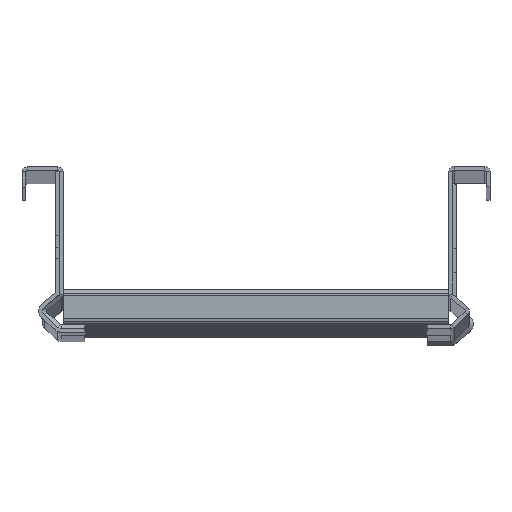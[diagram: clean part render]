
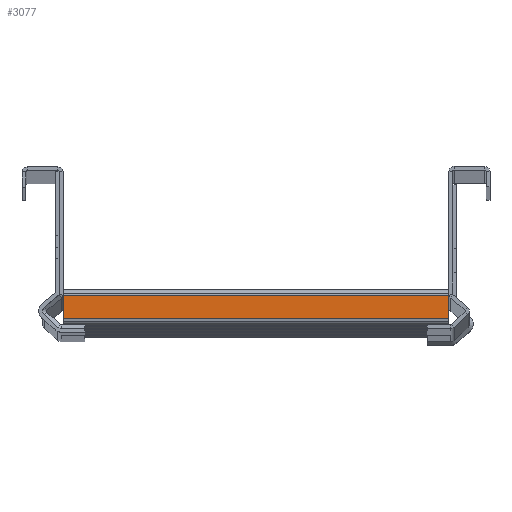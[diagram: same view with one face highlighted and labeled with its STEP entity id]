
A CAD part, top view. The second image highlights one B-rep face of the part: STEP entity #3077.
In plain terms, the highlighted planar face has unit normal (0, 0, 1) as drawn and (-1, 0, 0) by its records, which use the part's own axes.
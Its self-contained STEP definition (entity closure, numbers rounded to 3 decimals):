
#91 = PLANE ( 'NONE',  #1355 ) ;
#452 = EDGE_CURVE ( 'NONE', #3972, #2898, #3740, .T. ) ;
#499 = CARTESIAN_POINT ( 'NONE',  ( -17.5, 11.5, 75. ) ) ;
#589 = DIRECTION ( 'NONE',  ( 1., 0., 0. ) ) ;
#839 = VERTEX_POINT ( 'NONE', #1465 ) ;
#849 = LINE ( 'NONE', #2989, #4549 ) ;
#999 = ORIENTED_EDGE ( 'NONE', *, *, #1981, .T. ) ;
#1179 = DIRECTION ( 'NONE',  ( 0., 0., -1. ) ) ;
#1355 = AXIS2_PLACEMENT_3D ( 'NONE', #4372, #589, #1765 ) ;
#1465 = CARTESIAN_POINT ( 'NONE',  ( -17.5, 2.5, -75. ) ) ;
#1591 = ORIENTED_EDGE ( 'NONE', *, *, #1682, .F. ) ;
#1679 = VERTEX_POINT ( 'NONE', #2933 ) ;
#1682 = EDGE_CURVE ( 'NONE', #1679, #839, #849, .T. ) ;
#1765 = DIRECTION ( 'NONE',  ( 0., 0., -1. ) ) ;
#1832 = LINE ( 'NONE', #2195, #3682 ) ;
#1850 = DIRECTION ( 'NONE',  ( 0., -1., 0. ) ) ;
#1981 = EDGE_CURVE ( 'NONE', #2898, #839, #3126, .T. ) ;
#2003 = ORIENTED_EDGE ( 'NONE', *, *, #452, .T. ) ;
#2195 = CARTESIAN_POINT ( 'NONE',  ( -17.5, 14., 75. ) ) ;
#2515 = DIRECTION ( 'NONE',  ( 0., 0., -1. ) ) ;
#2705 = CARTESIAN_POINT ( 'NONE',  ( -17.5, 14., -75. ) ) ;
#2898 = VERTEX_POINT ( 'NONE', #4688 ) ;
#2933 = CARTESIAN_POINT ( 'NONE',  ( -17.5, 2.5, 75. ) ) ;
#2963 = CARTESIAN_POINT ( 'NONE',  ( -17.5, 11.5, 75. ) ) ;
#2989 = CARTESIAN_POINT ( 'NONE',  ( -17.5, 2.5, 75. ) ) ;
#3077 = ADVANCED_FACE ( 'NONE', ( #3088 ), #91, .F. ) ;
#3088 = FACE_OUTER_BOUND ( 'NONE', #4290, .T. ) ;
#3126 = LINE ( 'NONE', #2705, #4644 ) ;
#3443 = DIRECTION ( 'NONE',  ( 0., -1., 0. ) ) ;
#3682 = VECTOR ( 'NONE', #3443, 1000. ) ;
#3740 = LINE ( 'NONE', #2963, #4270 ) ;
#3972 = VERTEX_POINT ( 'NONE', #499 ) ;
#4148 = ORIENTED_EDGE ( 'NONE', *, *, #5370, .F. ) ;
#4270 = VECTOR ( 'NONE', #1179, 1000. ) ;
#4290 = EDGE_LOOP ( 'NONE', ( #999, #1591, #4148, #2003 ) ) ;
#4372 = CARTESIAN_POINT ( 'NONE',  ( -17.5, 14., 75. ) ) ;
#4549 = VECTOR ( 'NONE', #2515, 1000. ) ;
#4644 = VECTOR ( 'NONE', #1850, 1000. ) ;
#4688 = CARTESIAN_POINT ( 'NONE',  ( -17.5, 11.5, -75. ) ) ;
#5370 = EDGE_CURVE ( 'NONE', #3972, #1679, #1832, .T. ) ;
